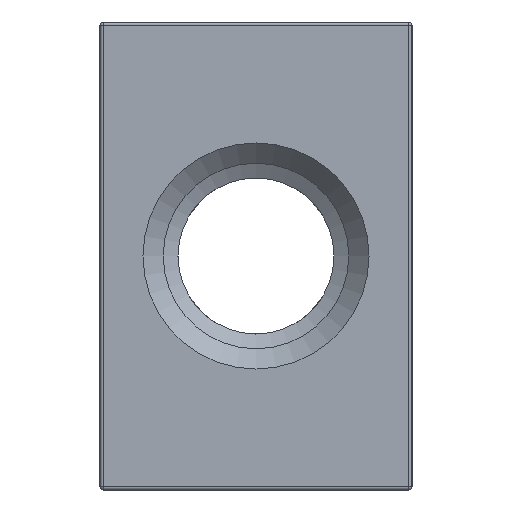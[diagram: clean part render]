
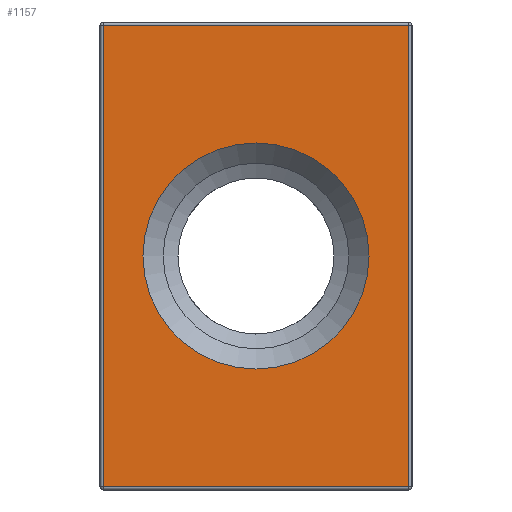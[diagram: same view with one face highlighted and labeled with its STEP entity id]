
A CAD part, left-side view. The second image highlights one B-rep face of the part: STEP entity #1157.
In plain terms, the highlighted planar face has unit normal (-1, 0, 0).
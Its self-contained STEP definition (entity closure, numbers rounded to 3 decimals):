
#83=FACE_BOUND('',#231,.T.);
#98=PLANE('',#1315);
#152=FACE_OUTER_BOUND('',#230,.T.);
#230=EDGE_LOOP('',(#990,#991,#992,#993));
#231=EDGE_LOOP('',(#994));
#293=LINE('',#2148,#358);
#297=LINE('',#2173,#362);
#300=LINE('',#2178,#365);
#302=LINE('',#2181,#367);
#358=VECTOR('',#1578,10.);
#362=VECTOR('',#1612,10.);
#365=VECTOR('',#1619,10.);
#367=VECTOR('',#1623,10.);
#457=CIRCLE('',#1316,7.245);
#540=VERTEX_POINT('',#2122);
#547=VERTEX_POINT('',#2144);
#549=VERTEX_POINT('',#2152);
#552=VERTEX_POINT('',#2167);
#557=VERTEX_POINT('',#2200);
#686=EDGE_CURVE('',#540,#547,#293,.T.);
#699=EDGE_CURVE('',#552,#549,#297,.T.);
#702=EDGE_CURVE('',#547,#552,#300,.T.);
#704=EDGE_CURVE('',#549,#540,#302,.T.);
#713=EDGE_CURVE('',#557,#557,#457,.T.);
#990=ORIENTED_EDGE('',*,*,#699,.F.);
#991=ORIENTED_EDGE('',*,*,#702,.F.);
#992=ORIENTED_EDGE('',*,*,#686,.F.);
#993=ORIENTED_EDGE('',*,*,#704,.F.);
#994=ORIENTED_EDGE('',*,*,#713,.F.);
#1157=ADVANCED_FACE('',(#152,#83),#98,.T.);
#1315=AXIS2_PLACEMENT_3D('',#2199,#1647,#1648);
#1316=AXIS2_PLACEMENT_3D('',#2201,#1649,#1650);
#1578=DIRECTION('',(0.,1.,0.));
#1612=DIRECTION('',(0.,-1.,0.));
#1619=DIRECTION('',(0.,0.,1.));
#1623=DIRECTION('',(0.,0.,-1.));
#1647=DIRECTION('center_axis',(-1.,0.,0.));
#1648=DIRECTION('ref_axis',(0.,0.,1.));
#1649=DIRECTION('center_axis',(-1.,0.,0.));
#1650=DIRECTION('ref_axis',(0.,1.,0.));
#2122=CARTESIAN_POINT('',(-60.,-9.8,-14.8));
#2144=CARTESIAN_POINT('',(-60.,9.8,-14.8));
#2148=CARTESIAN_POINT('',(-60.,0.,-14.8));
#2152=CARTESIAN_POINT('',(-60.,-9.8,14.8));
#2167=CARTESIAN_POINT('',(-60.,9.8,14.8));
#2173=CARTESIAN_POINT('',(-60.,0.,14.8));
#2178=CARTESIAN_POINT('',(-60.,9.8,-7.5));
#2181=CARTESIAN_POINT('',(-60.,-9.8,-7.5));
#2199=CARTESIAN_POINT('Origin',(-60.,0.,-15.));
#2200=CARTESIAN_POINT('',(-60.,-7.245,0.));
#2201=CARTESIAN_POINT('Origin',(-60.,0.,0.));
